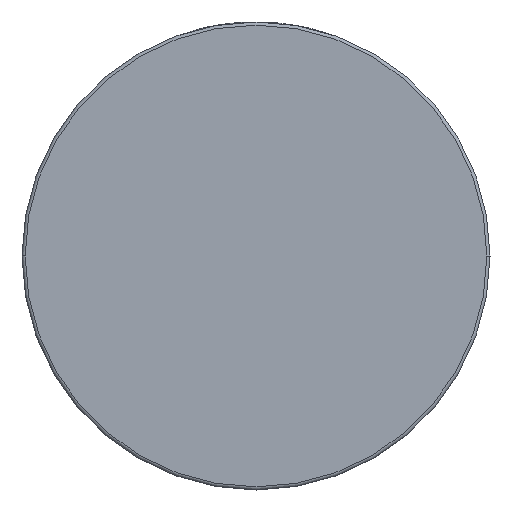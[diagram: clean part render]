
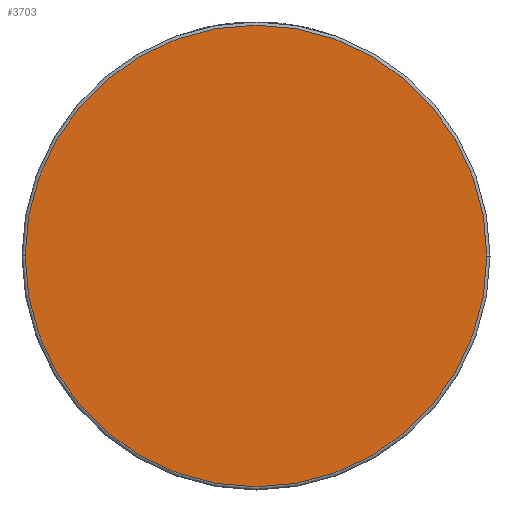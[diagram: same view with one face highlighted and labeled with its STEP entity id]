
A CAD part, front view. The second image highlights one B-rep face of the part: STEP entity #3703.
In plain terms, the highlighted planar face has unit normal (0, -1, 0).
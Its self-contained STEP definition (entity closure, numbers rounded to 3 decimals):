
#665 = FACE_OUTER_BOUND ( 'NONE', #3341, .T. ) ;
#956 = DIRECTION ( 'NONE',  ( 1., 0., 0. ) ) ;
#1174 = CARTESIAN_POINT ( 'NONE',  ( -73., -31.5, 0. ) ) ;
#1244 = DIRECTION ( 'NONE',  ( 1., 0., 0. ) ) ;
#1308 = CARTESIAN_POINT ( 'NONE',  ( 74., -31.5, 0. ) ) ;
#1571 = CIRCLE ( 'NONE', #2039, 73. ) ;
#1592 = CARTESIAN_POINT ( 'NONE',  ( 73., -31.5, 0. ) ) ;
#1746 = VERTEX_POINT ( 'NONE', #1592 ) ;
#1808 = CARTESIAN_POINT ( 'NONE',  ( 0., -31.5, 0. ) ) ;
#2004 = DIRECTION ( 'NONE',  ( 1., 0., 0. ) ) ;
#2039 = AXIS2_PLACEMENT_3D ( 'NONE', #3101, #3001, #2004 ) ;
#2201 = EDGE_CURVE ( 'NONE', #2896, #1746, #1571, .T. ) ;
#2266 = CIRCLE ( 'NONE', #2834, 73. ) ;
#2326 = AXIS2_PLACEMENT_3D ( 'NONE', #1308, #3244, #956 ) ;
#2806 = DIRECTION ( 'NONE',  ( 0., -1., 0. ) ) ;
#2834 = AXIS2_PLACEMENT_3D ( 'NONE', #1808, #2806, #1244 ) ;
#2896 = VERTEX_POINT ( 'NONE', #1174 ) ;
#3001 = DIRECTION ( 'NONE',  ( 0., -1., 0. ) ) ;
#3101 = CARTESIAN_POINT ( 'NONE',  ( 0., -31.5, 0. ) ) ;
#3244 = DIRECTION ( 'NONE',  ( 0., -1., 0. ) ) ;
#3341 = EDGE_LOOP ( 'NONE', ( #3503, #3801 ) ) ;
#3503 = ORIENTED_EDGE ( 'NONE', *, *, #4015, .T. ) ;
#3651 = PLANE ( 'NONE',  #2326 ) ;
#3703 = ADVANCED_FACE ( 'NONE', ( #665 ), #3651, .T. ) ;
#3801 = ORIENTED_EDGE ( 'NONE', *, *, #2201, .T. ) ;
#4015 = EDGE_CURVE ( 'NONE', #1746, #2896, #2266, .T. ) ;
